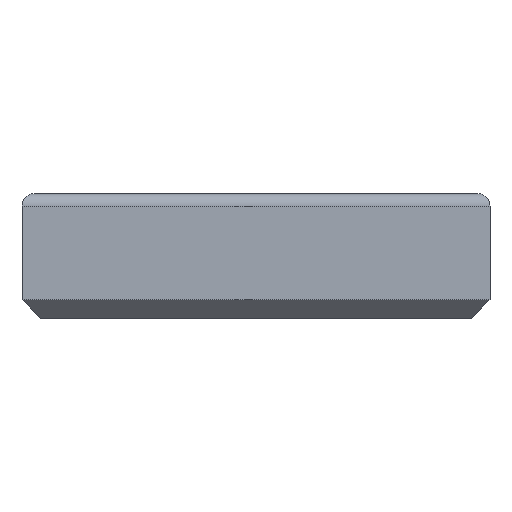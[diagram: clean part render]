
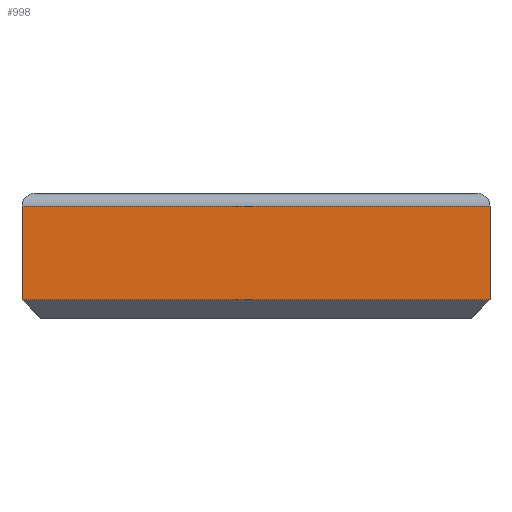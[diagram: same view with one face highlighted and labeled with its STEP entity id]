
A CAD part, front view. The second image highlights one B-rep face of the part: STEP entity #998.
In plain terms, the highlighted planar face has unit normal (0, -1, 0).
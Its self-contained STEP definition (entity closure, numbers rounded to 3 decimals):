
#73 = VERTEX_POINT ( 'NONE', #1418 ) ;
#120 = CARTESIAN_POINT ( 'NONE',  ( 0., 0., 0. ) ) ;
#145 = LINE ( 'NONE', #1022, #1888 ) ;
#169 = AXIS2_PLACEMENT_3D ( 'NONE', #120, #2152, #3847 ) ;
#440 = VERTEX_POINT ( 'NONE', #3759 ) ;
#669 = DIRECTION ( 'NONE',  ( 0., 0., 1. ) ) ;
#687 = VECTOR ( 'NONE', #3319, 1000. ) ;
#753 = CARTESIAN_POINT ( 'NONE',  ( 0., 0., 3. ) ) ;
#888 = LINE ( 'NONE', #1044, #687 ) ;
#998 = ADVANCED_FACE ( 'NONE', ( #2493 ), #2446, .T. ) ;
#1022 = CARTESIAN_POINT ( 'NONE',  ( 37.5, 0., 18. ) ) ;
#1032 = ORIENTED_EDGE ( 'NONE', *, *, #1968, .F. ) ;
#1044 = CARTESIAN_POINT ( 'NONE',  ( 37.5, 0., 3. ) ) ;
#1120 = VERTEX_POINT ( 'NONE', #3165 ) ;
#1194 = VECTOR ( 'NONE', #1910, 1000. ) ;
#1269 = EDGE_CURVE ( 'NONE', #3681, #73, #888, .T. ) ;
#1418 = CARTESIAN_POINT ( 'NONE',  ( 75., 0., 3. ) ) ;
#1743 = ORIENTED_EDGE ( 'NONE', *, *, #4024, .F. ) ;
#1888 = VECTOR ( 'NONE', #3333, 1000. ) ;
#1910 = DIRECTION ( 'NONE',  ( 0., 0., 1. ) ) ;
#1968 = EDGE_CURVE ( 'NONE', #1120, #440, #145, .T. ) ;
#2152 = DIRECTION ( 'NONE',  ( 0., -1., 0. ) ) ;
#2446 = PLANE ( 'NONE',  #169 ) ;
#2493 = FACE_OUTER_BOUND ( 'NONE', #2753, .T. ) ;
#2668 = EDGE_CURVE ( 'NONE', #73, #440, #3731, .T. ) ;
#2753 = EDGE_LOOP ( 'NONE', ( #2896, #1032, #1743, #4271 ) ) ;
#2896 = ORIENTED_EDGE ( 'NONE', *, *, #2668, .T. ) ;
#2961 = CARTESIAN_POINT ( 'NONE',  ( 0., 0., 10.5 ) ) ;
#3165 = CARTESIAN_POINT ( 'NONE',  ( 0., 0., 18. ) ) ;
#3175 = LINE ( 'NONE', #2961, #3965 ) ;
#3319 = DIRECTION ( 'NONE',  ( 1., 0., 0. ) ) ;
#3333 = DIRECTION ( 'NONE',  ( 1., 0., 0. ) ) ;
#3681 = VERTEX_POINT ( 'NONE', #753 ) ;
#3731 = LINE ( 'NONE', #4230, #1194 ) ;
#3759 = CARTESIAN_POINT ( 'NONE',  ( 75., 0., 18. ) ) ;
#3847 = DIRECTION ( 'NONE',  ( 0., 0., -1. ) ) ;
#3965 = VECTOR ( 'NONE', #669, 1000. ) ;
#4024 = EDGE_CURVE ( 'NONE', #3681, #1120, #3175, .T. ) ;
#4230 = CARTESIAN_POINT ( 'NONE',  ( 75., 0., 10.5 ) ) ;
#4271 = ORIENTED_EDGE ( 'NONE', *, *, #1269, .T. ) ;
